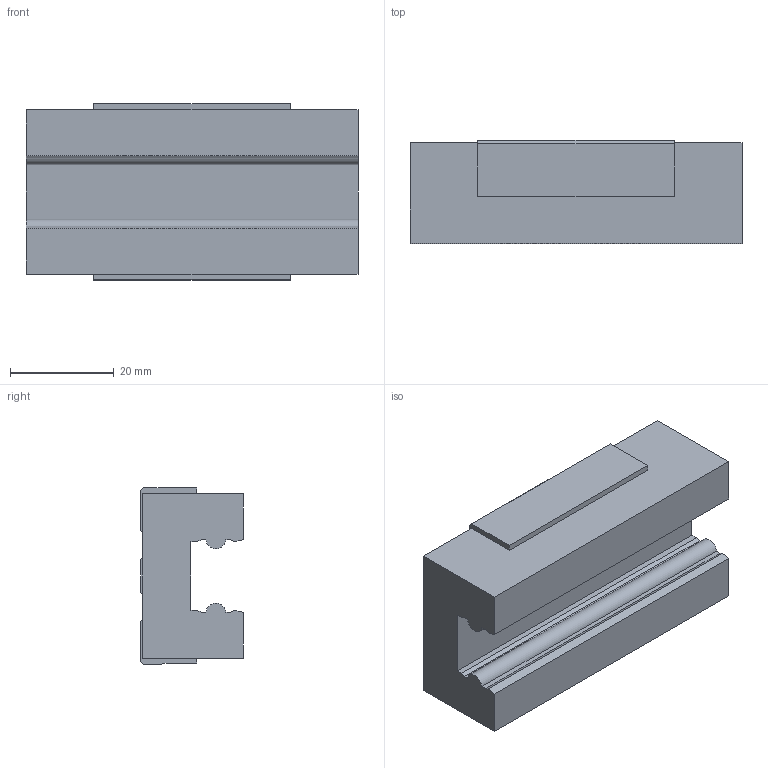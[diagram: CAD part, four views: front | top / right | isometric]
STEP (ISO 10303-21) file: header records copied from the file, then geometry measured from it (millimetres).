
FILE_DESCRIPTION( ( '' ), '1' );
FILE_NAME( 'c:/dr_tretter_step_out/schienenfuehrungen/alu_sf/gns_1500.stp', '2008-09-03T09:11:48', ( '' ), ( '' ), ' ', ' ', ' ' );
FILE_SCHEMA( ( 'CONFIG_CONTROL_DESIGN' ) );
Length unit declared in the file: millimetre
Products named in the file (1): 1
Bounding box: 64 x 19.8 x 34 mm (x, y, z)
Volume: 31807.4 mm3; surface area: 9652.9 mm2
Topology: 1 solids, 1 shells, 74 faces, 192 edges, 116 vertices
Faces by surface type: plane 48, cone 16, cylinder 10
Entity records: 2200 total; most frequent: CARTESIAN_POINT 375, ORIENTED_EDGE 368, DIRECTION 362, EDGE_CURVE 184, LINE 156, VECTOR 156, VERTEX_POINT 116, AXIS2_PLACEMENT_3D 103
